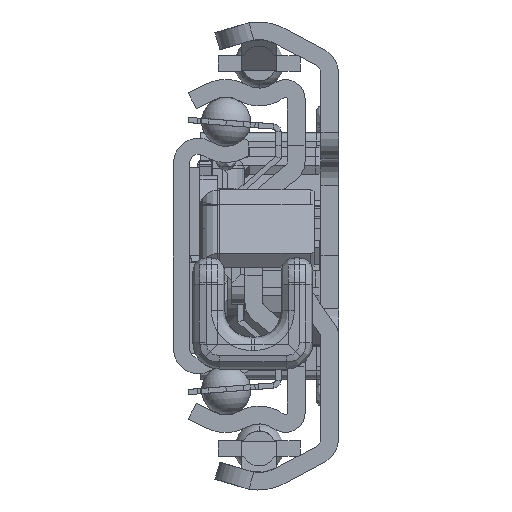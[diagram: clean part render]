
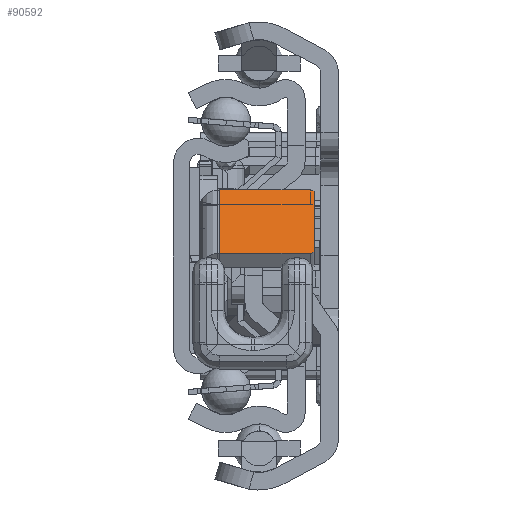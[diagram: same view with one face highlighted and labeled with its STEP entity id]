
A CAD part, left-side view. The second image highlights one B-rep face of the part: STEP entity #90592.
In plain terms, the highlighted planar face has unit normal (-0.597, 0, 0.802) as drawn and (-0.597, -0.802, 0) by its records, which use the part's own axes.
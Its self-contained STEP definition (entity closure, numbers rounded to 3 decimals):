
#89980=DIRECTION('',(0.802,-0.597,0.));
#89981=VECTOR('',#89980,12.);
#89982=CARTESIAN_POINT('',(31.957,-10.314,-0.2));
#89983=LINE('',#89982,#89981);
#90008=DIRECTION('',(0.,0.,1.));
#90009=VECTOR('',#90008,10.3);
#90010=CARTESIAN_POINT('',(41.586,-17.476,-10.5));
#90011=LINE('',#90010,#90009);
#90012=CARTESIAN_POINT('',(41.184,-17.178,-10.5));
#90013=DIRECTION('',(-0.597,-0.802,0.));
#90014=DIRECTION('',(0.,0.,-1.));
#90015=AXIS2_PLACEMENT_3D('',#90012,#90013,#90014);
#90017=DIRECTION('',(0.802,-0.597,0.));
#90018=VECTOR('',#90017,11.);
#90019=CARTESIAN_POINT('',(32.358,-10.613,-11.));
#90020=LINE('',#90019,#90018);
#90021=CARTESIAN_POINT('',(32.358,-10.613,-10.5));
#90022=DIRECTION('',(-0.597,-0.802,0.));
#90023=DIRECTION('',(-0.802,0.597,0.));
#90024=AXIS2_PLACEMENT_3D('',#90021,#90022,#90023);
#90026=DIRECTION('',(0.,0.,-1.));
#90027=VECTOR('',#90026,10.3);
#90028=CARTESIAN_POINT('',(31.957,-10.314,-0.2));
#90029=LINE('',#90028,#90027);
#90246=CARTESIAN_POINT('',(31.957,-10.314,-0.2));
#90247=CARTESIAN_POINT('',(41.586,-17.476,-0.2));
#90248=VERTEX_POINT('',#90246);
#90249=VERTEX_POINT('',#90247);
#90278=CARTESIAN_POINT('',(41.586,-17.476,-10.5));
#90279=VERTEX_POINT('',#90278);
#90280=CARTESIAN_POINT('',(32.358,-10.613,-11.));
#90281=CARTESIAN_POINT('',(41.184,-17.178,-11.));
#90282=VERTEX_POINT('',#90280);
#90283=VERTEX_POINT('',#90281);
#90284=CARTESIAN_POINT('',(31.957,-10.314,-10.5));
#90285=VERTEX_POINT('',#90284);
#90574=CARTESIAN_POINT('',(34.726,-12.374,2.));
#90575=DIRECTION('',(0.597,0.802,0.));
#90576=DIRECTION('',(0.802,-0.597,0.));
#90577=AXIS2_PLACEMENT_3D('',#90574,#90575,#90576);
#90578=PLANE('',#90577);
#90580=ORIENTED_EDGE('',*,*,#90579,.F.);
#90582=ORIENTED_EDGE('',*,*,#90581,.F.);
#90584=ORIENTED_EDGE('',*,*,#90583,.F.);
#90586=ORIENTED_EDGE('',*,*,#90585,.F.);
#90588=ORIENTED_EDGE('',*,*,#90587,.F.);
#90589=ORIENTED_EDGE('',*,*,#90561,.T.);
#90590=EDGE_LOOP('',(#90580,#90582,#90584,#90586,#90588,#90589));
#90591=FACE_OUTER_BOUND('',#90590,.F.);
#90016=CIRCLE('',#90015,0.5);
#90025=CIRCLE('',#90024,0.5);
#90561=EDGE_CURVE('',#90248,#90249,#89983,.T.);
#90579=EDGE_CURVE('',#90279,#90249,#90011,.T.);
#90581=EDGE_CURVE('',#90283,#90279,#90016,.T.);
#90583=EDGE_CURVE('',#90282,#90283,#90020,.T.);
#90585=EDGE_CURVE('',#90285,#90282,#90025,.T.);
#90587=EDGE_CURVE('',#90248,#90285,#90029,.T.);
#90592=ADVANCED_FACE('',(#90591),#90578,.F.);
